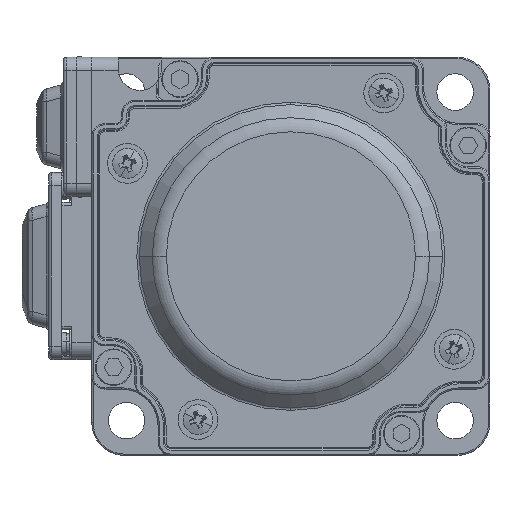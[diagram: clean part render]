
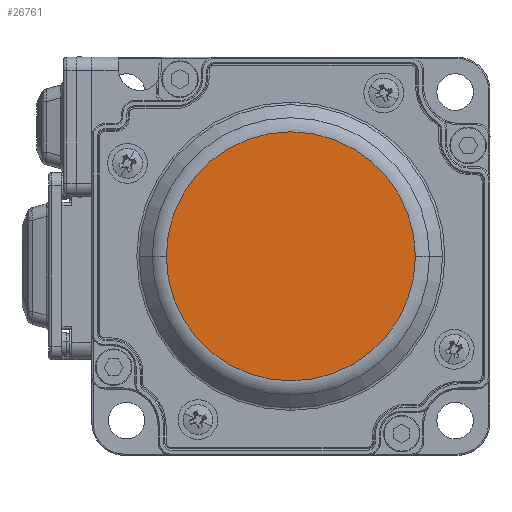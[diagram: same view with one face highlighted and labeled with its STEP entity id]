
A CAD part, left-side view. The second image highlights one B-rep face of the part: STEP entity #26761.
In plain terms, the highlighted planar face has unit normal (-1, 0, 0).
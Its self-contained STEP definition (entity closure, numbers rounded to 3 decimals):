
#71 = DIRECTION ( 'NONE',  ( 0., 1., 0. ) ) ;
#168 = CARTESIAN_POINT ( 'NONE',  ( -117.051, -18.387, 157.079 ) ) ;
#2937 = DIRECTION ( 'NONE',  ( -1., 0., 0. ) ) ;
#4857 = EDGE_CURVE ( 'NONE', #7860, #32687, #28222, .T. ) ;
#7860 = VERTEX_POINT ( 'NONE', #17642 ) ;
#8175 = EDGE_LOOP ( 'NONE', ( #40352, #18933 ) ) ;
#9740 = FACE_OUTER_BOUND ( 'NONE', #8175, .T. ) ;
#10582 = AXIS2_PLACEMENT_3D ( 'NONE', #34213, #34598, #12329 ) ;
#11106 = CARTESIAN_POINT ( 'NONE',  ( -117.051, -19.63, 157.079 ) ) ;
#12329 = DIRECTION ( 'NONE',  ( 0., 1., 0. ) ) ;
#17066 = AXIS2_PLACEMENT_3D ( 'NONE', #168, #18903, #40373 ) ;
#17642 = CARTESIAN_POINT ( 'NONE',  ( -117.051, -57.145, 157.079 ) ) ;
#18903 = DIRECTION ( 'NONE',  ( 1., 0., 0. ) ) ;
#18933 = ORIENTED_EDGE ( 'NONE', *, *, #4857, .T. ) ;
#18999 = CARTESIAN_POINT ( 'NONE',  ( -117.051, -38.387, 157.079 ) ) ;
#24025 = EDGE_CURVE ( 'NONE', #32687, #7860, #28645, .T. ) ;
#26761 = ADVANCED_FACE ( 'NONE', ( #9740 ), #37713, .F. ) ;
#28222 = CIRCLE ( 'NONE', #10582, 18.757 ) ;
#28645 = CIRCLE ( 'NONE', #38397, 18.757 ) ;
#32687 = VERTEX_POINT ( 'NONE', #11106 ) ;
#34213 = CARTESIAN_POINT ( 'NONE',  ( -117.051, -38.387, 157.079 ) ) ;
#34598 = DIRECTION ( 'NONE',  ( -1., 0., 0. ) ) ;
#37713 = PLANE ( 'NONE',  #17066 ) ;
#38397 = AXIS2_PLACEMENT_3D ( 'NONE', #18999, #2937, #71 ) ;
#40352 = ORIENTED_EDGE ( 'NONE', *, *, #24025, .T. ) ;
#40373 = DIRECTION ( 'NONE',  ( 0., 1., 0. ) ) ;
